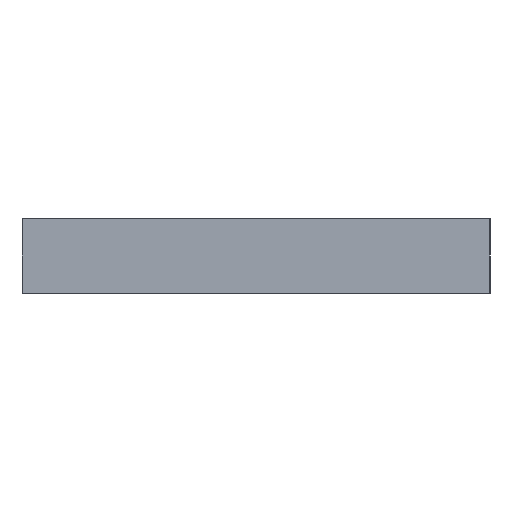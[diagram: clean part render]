
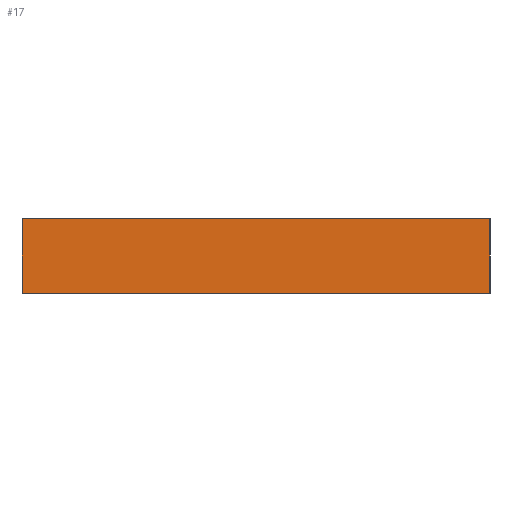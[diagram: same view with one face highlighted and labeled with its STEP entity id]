
A CAD part, left-side view. The second image highlights one B-rep face of the part: STEP entity #17.
In plain terms, the highlighted planar face has unit normal (-1, 0, 0).
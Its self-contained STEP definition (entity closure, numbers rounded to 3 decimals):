
#17 = ADVANCED_FACE('',(#18),#32,.F.);
#18 = FACE_BOUND('',#19,.F.);
#19 = EDGE_LOOP('',(#20,#55,#83,#111));
#20 = ORIENTED_EDGE('',*,*,#21,.F.);
#21 = EDGE_CURVE('',#22,#24,#26,.T.);
#22 = VERTEX_POINT('',#23);
#23 = CARTESIAN_POINT('',(-57.5,-31.3,-5.));
#24 = VERTEX_POINT('',#25);
#25 = CARTESIAN_POINT('',(-57.5,-31.3,5.));
#26 = SURFACE_CURVE('',#27,(#31,#43),.PCURVE_S1.);
#27 = LINE('',#28,#29);
#28 = CARTESIAN_POINT('',(-57.5,-31.3,-5.));
#29 = VECTOR('',#30,1.);
#30 = DIRECTION('',(0.,0.,1.));
#31 = PCURVE('',#32,#37);
#32 = PLANE('',#33);
#33 = AXIS2_PLACEMENT_3D('',#34,#35,#36);
#34 = CARTESIAN_POINT('',(-57.5,-31.3,-5.));
#35 = DIRECTION('',(1.,0.,0.));
#36 = DIRECTION('',(0.,0.,1.));
#37 = DEFINITIONAL_REPRESENTATION('',(#38),#42);
#38 = LINE('',#39,#40);
#39 = CARTESIAN_POINT('',(0.,0.));
#40 = VECTOR('',#41,1.);
#41 = DIRECTION('',(1.,0.));
#42 = ( GEOMETRIC_REPRESENTATION_CONTEXT(2) 
PARAMETRIC_REPRESENTATION_CONTEXT() REPRESENTATION_CONTEXT('2D SPACE',''
  ) );
#43 = PCURVE('',#44,#49);
#44 = PLANE('',#45);
#45 = AXIS2_PLACEMENT_3D('',#46,#47,#48);
#46 = CARTESIAN_POINT('',(-57.5,-31.3,-5.));
#47 = DIRECTION('',(0.,1.,0.));
#48 = DIRECTION('',(0.,0.,1.));
#49 = DEFINITIONAL_REPRESENTATION('',(#50),#54);
#50 = LINE('',#51,#52);
#51 = CARTESIAN_POINT('',(0.,0.));
#52 = VECTOR('',#53,1.);
#53 = DIRECTION('',(1.,0.));
#54 = ( GEOMETRIC_REPRESENTATION_CONTEXT(2) 
PARAMETRIC_REPRESENTATION_CONTEXT() REPRESENTATION_CONTEXT('2D SPACE',''
  ) );
#55 = ORIENTED_EDGE('',*,*,#56,.T.);
#56 = EDGE_CURVE('',#22,#57,#59,.T.);
#57 = VERTEX_POINT('',#58);
#58 = CARTESIAN_POINT('',(-57.5,31.3,-5.));
#59 = SURFACE_CURVE('',#60,(#64,#71),.PCURVE_S1.);
#60 = LINE('',#61,#62);
#61 = CARTESIAN_POINT('',(-57.5,-31.3,-5.));
#62 = VECTOR('',#63,1.);
#63 = DIRECTION('',(0.,1.,0.));
#64 = PCURVE('',#32,#65);
#65 = DEFINITIONAL_REPRESENTATION('',(#66),#70);
#66 = LINE('',#67,#68);
#67 = CARTESIAN_POINT('',(0.,0.));
#68 = VECTOR('',#69,1.);
#69 = DIRECTION('',(0.,-1.));
#70 = ( GEOMETRIC_REPRESENTATION_CONTEXT(2) 
PARAMETRIC_REPRESENTATION_CONTEXT() REPRESENTATION_CONTEXT('2D SPACE',''
  ) );
#71 = PCURVE('',#72,#77);
#72 = PLANE('',#73);
#73 = AXIS2_PLACEMENT_3D('',#74,#75,#76);
#74 = CARTESIAN_POINT('',(-57.5,-31.3,-5.));
#75 = DIRECTION('',(0.,0.,1.));
#76 = DIRECTION('',(1.,0.,0.));
#77 = DEFINITIONAL_REPRESENTATION('',(#78),#82);
#78 = LINE('',#79,#80);
#79 = CARTESIAN_POINT('',(0.,0.));
#80 = VECTOR('',#81,1.);
#81 = DIRECTION('',(0.,1.));
#82 = ( GEOMETRIC_REPRESENTATION_CONTEXT(2) 
PARAMETRIC_REPRESENTATION_CONTEXT() REPRESENTATION_CONTEXT('2D SPACE',''
  ) );
#83 = ORIENTED_EDGE('',*,*,#84,.T.);
#84 = EDGE_CURVE('',#57,#85,#87,.T.);
#85 = VERTEX_POINT('',#86);
#86 = CARTESIAN_POINT('',(-57.5,31.3,5.));
#87 = SURFACE_CURVE('',#88,(#92,#99),.PCURVE_S1.);
#88 = LINE('',#89,#90);
#89 = CARTESIAN_POINT('',(-57.5,31.3,-5.));
#90 = VECTOR('',#91,1.);
#91 = DIRECTION('',(0.,0.,1.));
#92 = PCURVE('',#32,#93);
#93 = DEFINITIONAL_REPRESENTATION('',(#94),#98);
#94 = LINE('',#95,#96);
#95 = CARTESIAN_POINT('',(0.,-62.6));
#96 = VECTOR('',#97,1.);
#97 = DIRECTION('',(1.,0.));
#98 = ( GEOMETRIC_REPRESENTATION_CONTEXT(2) 
PARAMETRIC_REPRESENTATION_CONTEXT() REPRESENTATION_CONTEXT('2D SPACE',''
  ) );
#99 = PCURVE('',#100,#105);
#100 = PLANE('',#101);
#101 = AXIS2_PLACEMENT_3D('',#102,#103,#104);
#102 = CARTESIAN_POINT('',(-57.5,31.3,-5.));
#103 = DIRECTION('',(0.,1.,0.));
#104 = DIRECTION('',(0.,0.,1.));
#105 = DEFINITIONAL_REPRESENTATION('',(#106),#110);
#106 = LINE('',#107,#108);
#107 = CARTESIAN_POINT('',(0.,0.));
#108 = VECTOR('',#109,1.);
#109 = DIRECTION('',(1.,0.));
#110 = ( GEOMETRIC_REPRESENTATION_CONTEXT(2) 
PARAMETRIC_REPRESENTATION_CONTEXT() REPRESENTATION_CONTEXT('2D SPACE',''
  ) );
#111 = ORIENTED_EDGE('',*,*,#112,.F.);
#112 = EDGE_CURVE('',#24,#85,#113,.T.);
#113 = SURFACE_CURVE('',#114,(#118,#125),.PCURVE_S1.);
#114 = LINE('',#115,#116);
#115 = CARTESIAN_POINT('',(-57.5,-31.3,5.));
#116 = VECTOR('',#117,1.);
#117 = DIRECTION('',(0.,1.,0.));
#118 = PCURVE('',#32,#119);
#119 = DEFINITIONAL_REPRESENTATION('',(#120),#124);
#120 = LINE('',#121,#122);
#121 = CARTESIAN_POINT('',(10.,0.));
#122 = VECTOR('',#123,1.);
#123 = DIRECTION('',(0.,-1.));
#124 = ( GEOMETRIC_REPRESENTATION_CONTEXT(2) 
PARAMETRIC_REPRESENTATION_CONTEXT() REPRESENTATION_CONTEXT('2D SPACE',''
  ) );
#125 = PCURVE('',#126,#131);
#126 = PLANE('',#127);
#127 = AXIS2_PLACEMENT_3D('',#128,#129,#130);
#128 = CARTESIAN_POINT('',(-57.5,-31.3,5.));
#129 = DIRECTION('',(0.,0.,1.));
#130 = DIRECTION('',(1.,0.,0.));
#131 = DEFINITIONAL_REPRESENTATION('',(#132),#136);
#132 = LINE('',#133,#134);
#133 = CARTESIAN_POINT('',(0.,0.));
#134 = VECTOR('',#135,1.);
#135 = DIRECTION('',(0.,1.));
#136 = ( GEOMETRIC_REPRESENTATION_CONTEXT(2) 
PARAMETRIC_REPRESENTATION_CONTEXT() REPRESENTATION_CONTEXT('2D SPACE',''
  ) );
